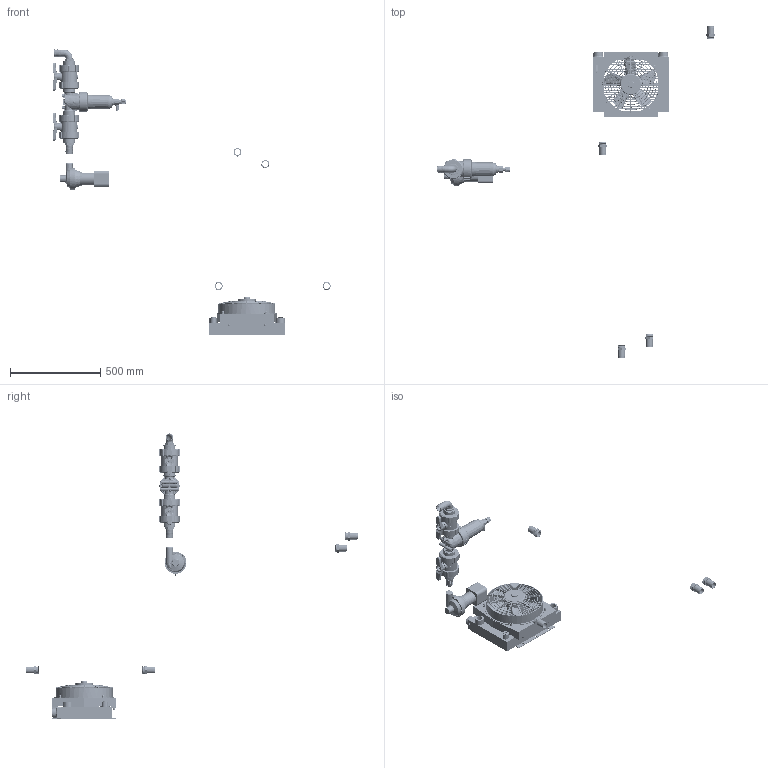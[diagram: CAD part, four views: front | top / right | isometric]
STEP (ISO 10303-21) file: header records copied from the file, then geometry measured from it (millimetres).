
FILE_DESCRIPTION(/* description */ (''),/* implementation_level */ '2;1');
FILE_NAME(/* name */ '1638076.stp',/* time_stamp */ '2025-04-23T12:47:27+02:00',/* author */ ('JJ'),/* organization */ (''),/* preprocessor_version */ 'ST-DEVELOPER v20',/* originating_system */ 'Autodesk Inventor 2025',/* authorisation */ '');
FILE_SCHEMA (('AUTOMOTIVE_DESIGN { 1 0 10303 214 3 1 1 }'));
Products named in the file (10): 1638076; 962000075; 944600346; 944600344; 944600345; 944600347; 944600348; 944600349; 925000888; 962000064
Assembly tree (19 placements, depth 2):
  1638076
    925000888  x4
    962000075
    944600346  x2
    944600344
    944600345
    944600347  x4
    944600348
    944600349  x4
    962000064
Bounding box: 1539.17 x 1834.73 x 1576.28 mm (x, y, z)
Volume: 10129835.4 mm3; surface area: 2921393.6 mm2
Topology: 77 solids, 82 shells, 4466 faces, 11558 edges, 7385 vertices
Faces by surface type: plane 1980, cylinder 1049, bspline 655, cone 403, torus 331, sphere 48
Full cylindrical faces by diameter (mm): 1.28 x2, 3 x1, 3.1 x1, 5.5 x1, 6 x16, 6.2 x4, 6.4 x4, 6.647 x2, 6.8 x12, 8 x14, 8.4 x4, 8.5 x2, 9.5 x1, 10 x8, 10.8 x1, 11.3 x2, 11.445 x2, 11.5 x1, 12 x10, 13 x4, 13.5 x4, 14 x1, 17 x4, 18 x4, 18.1 x4, 18.5 x1, 18.63 x1, 18.631 x2, 19 x2, 20 x2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
Entity records: 148538 total; most frequent: CARTESIAN_POINT 67833, ORIENTED_EDGE 17034, DIRECTION 14824, EDGE_CURVE 8517, VERTEX_POINT 5463, AXIS2_PLACEMENT_3D 5370, LINE 4084, VECTOR 4084
